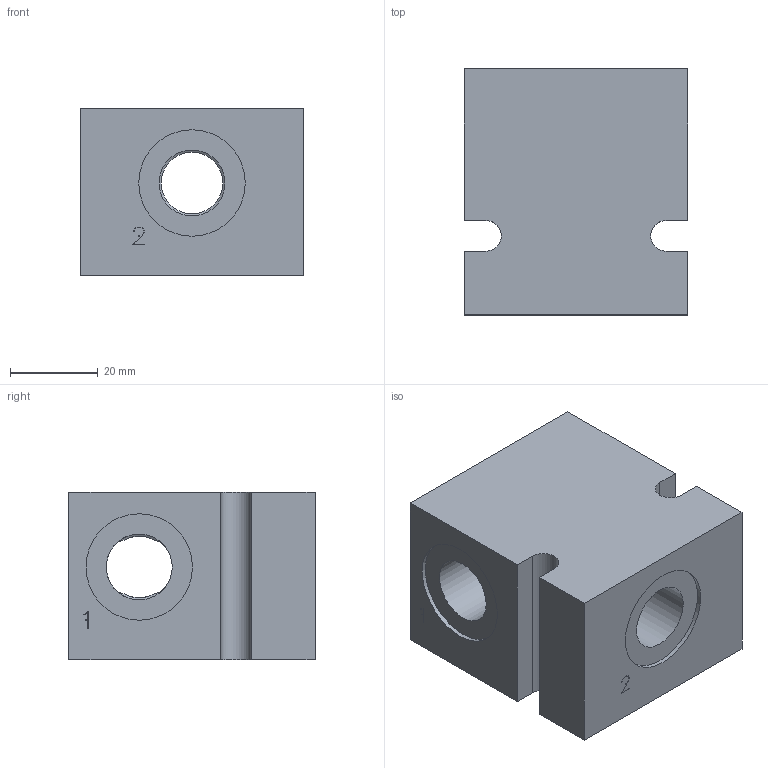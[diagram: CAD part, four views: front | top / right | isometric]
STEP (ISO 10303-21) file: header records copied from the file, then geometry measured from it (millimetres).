
FILE_DESCRIPTION( ( 'Unknown' ), '1' );
FILE_NAME( 'G:/Graphic Design/Graphic Design 2/Data Sheets/Delta Bodies/DRAWINGS/B-DDEB3.stp', 'Unknown', ( 'Unknown' ), ( 'Unknown' ), 'PSStep 16.0.42', 'Unknown', ' ' );
FILE_SCHEMA( ( 'AUTOMOTIVE_DESIGN { 1 0 10303 214 1 1 1 1 }' ) );
Length unit declared in the file: millimetre
Products named in the file (2): Assem1; B-DDEB3
Assembly tree (1 placements, depth 2):
  Assem1
    B-DDEB3
Bounding box: 50.8 x 56 x 38.1 mm (x, y, z)
Surface area: 18288.5 mm2 (no closed solid volume)
Topology: 0 solids, 102 shells, 102 faces, 507 edges, 483 vertices
Faces by surface type: plane 68, cylinder 24, cone 10
Full cylindrical faces by diameter (mm): 0.2 x3, 14 x1, 15 x6, 15.9 x1, 17.043 x1, 20.262 x2, 24.2 x3, 30.175 x1
Entity records: 5716 total; most frequent: CARTESIAN_POINT 1604, DIRECTION 544, ORIENTED_EDGE 470, EDGE_CURVE 470, VERTEX_POINT 470, B_SPLINE_CURVE_WITH_KNOTS 224, AXIS2_PLACEMENT_3D 194, LINE 156
